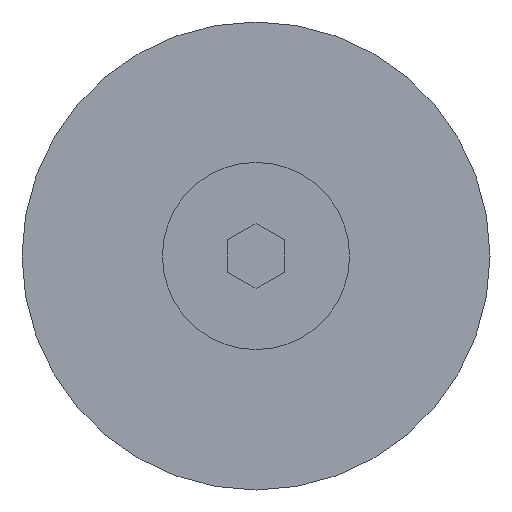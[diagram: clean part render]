
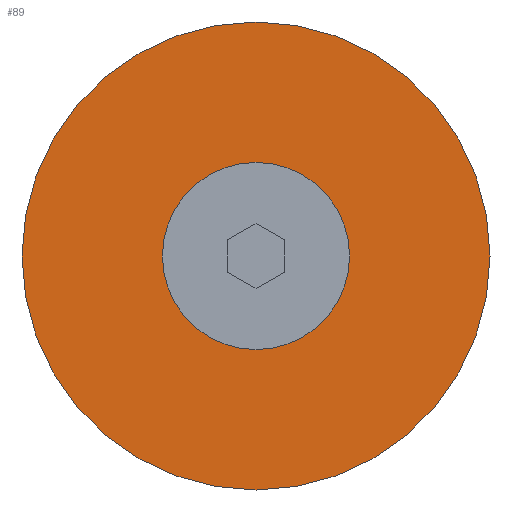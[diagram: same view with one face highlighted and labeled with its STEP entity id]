
A CAD part, front view. The second image highlights one B-rep face of the part: STEP entity #89.
In plain terms, the highlighted planar face has unit normal (0, -1, 0).
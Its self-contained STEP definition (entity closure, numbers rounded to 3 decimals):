
#89 = ADVANCED_FACE( '', ( #136, #137 ), #138, .F. );
#136 = FACE_BOUND( '', #197, .T. );
#137 = FACE_OUTER_BOUND( '', #198, .T. );
#138 = PLANE( '', #199 );
#197 = EDGE_LOOP( '', ( #319 ) );
#198 = EDGE_LOOP( '', ( #320 ) );
#199 = AXIS2_PLACEMENT_3D( '', #321, #322, #323 );
#319 = ORIENTED_EDGE( '', *, *, #420, .F. );
#320 = ORIENTED_EDGE( '', *, *, #421, .T. );
#321 = CARTESIAN_POINT( '', ( 12.5, -16., 0. ) );
#322 = DIRECTION( '', ( 0., 1., 0. ) );
#323 = DIRECTION( '', ( 0., 0., 1. ) );
#420 = EDGE_CURVE( '', #490, #490, #491, .T. );
#421 = EDGE_CURVE( '', #492, #492, #493, .T. );
#490 = VERTEX_POINT( '', #594 );
#491 = CIRCLE( '', #595, 5. );
#492 = VERTEX_POINT( '', #596 );
#493 = CIRCLE( '', #597, 12.5 );
#594 = CARTESIAN_POINT( '', ( 0., -16., -5. ) );
#595 = AXIS2_PLACEMENT_3D( '', #674, #675, #676 );
#596 = CARTESIAN_POINT( '', ( 0., -16., -12.5 ) );
#597 = AXIS2_PLACEMENT_3D( '', #677, #678, #679 );
#674 = CARTESIAN_POINT( '', ( 0., -16., 0. ) );
#675 = DIRECTION( '', ( 0., -1., 0. ) );
#676 = DIRECTION( '', ( 0., 0., -1. ) );
#677 = CARTESIAN_POINT( '', ( 0., -16., 0. ) );
#678 = DIRECTION( '', ( 0., -1., 0. ) );
#679 = DIRECTION( '', ( 0., 0., -1. ) );
